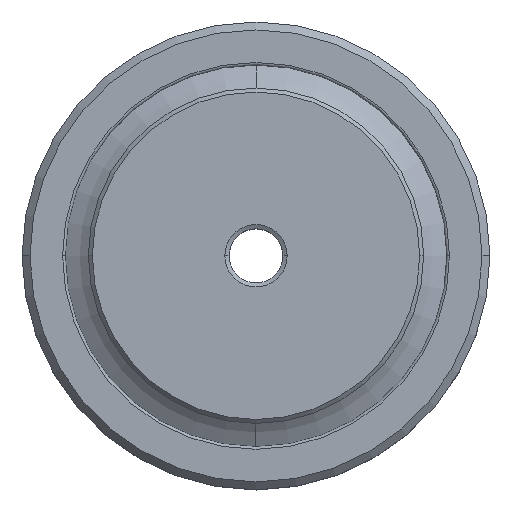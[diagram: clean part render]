
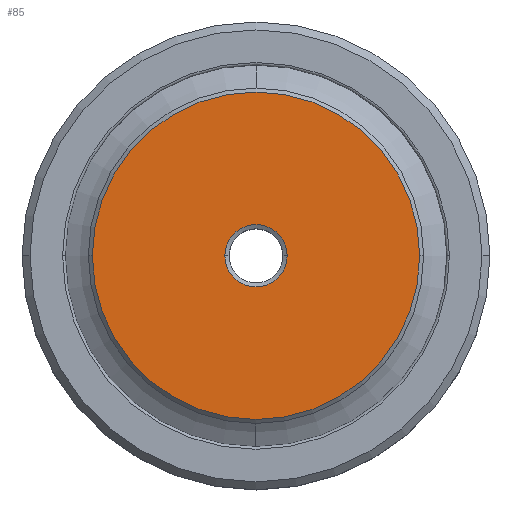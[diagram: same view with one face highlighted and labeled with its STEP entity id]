
A CAD part, top view. The second image highlights one B-rep face of the part: STEP entity #85.
In plain terms, the highlighted planar face has unit normal (0, 0, 1).
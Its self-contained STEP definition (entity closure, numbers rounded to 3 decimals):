
#85=ADVANCED_FACE('',(#180,#181),#182,.T.);
#180=FACE_OUTER_BOUND('',#288,.T.);
#181=FACE_BOUND('',#289,.T.);
#182=PLANE('',#290);
#288=EDGE_LOOP('',(#603,#604));
#289=EDGE_LOOP('',(#605,#606));
#290=AXIS2_PLACEMENT_3D('',#607,#608,#609);
#603=ORIENTED_EDGE('',*,*,#725,.F.);
#604=ORIENTED_EDGE('',*,*,#796,.F.);
#605=ORIENTED_EDGE('',*,*,#795,.T.);
#606=ORIENTED_EDGE('',*,*,#728,.T.);
#607=CARTESIAN_POINT('',(37.487,0.,72.));
#608=DIRECTION('',(0.0,0.,1.0));
#609=DIRECTION('',(-1.0,0.0,0.0));
#725=EDGE_CURVE('',#867,#869,#870,.T.);
#728=EDGE_CURVE('',#875,#872,#876,.T.);
#795=EDGE_CURVE('',#872,#875,#981,.T.);
#796=EDGE_CURVE('',#869,#867,#982,.T.);
#867=VERTEX_POINT('',#1061);
#869=VERTEX_POINT('',#1064);
#870=CIRCLE('',#1065,62.974);
#872=VERTEX_POINT('',#1068);
#875=VERTEX_POINT('',#1072);
#876=CIRCLE('',#1073,12.);
#981=CIRCLE('',#1195,12.);
#982=CIRCLE('',#1196,62.974);
#1061=CARTESIAN_POINT('',(62.974,0.,72.));
#1064=CARTESIAN_POINT('',(-62.974,0.,72.));
#1065=AXIS2_PLACEMENT_3D('',#1289,#1290,#1291);
#1068=CARTESIAN_POINT('',(12.,0.,72.));
#1072=CARTESIAN_POINT('',(-12.,0.,72.));
#1073=AXIS2_PLACEMENT_3D('',#1294,#1295,#1296);
#1195=AXIS2_PLACEMENT_3D('',#1461,#1462,#1463);
#1196=AXIS2_PLACEMENT_3D('',#1464,#1465,#1466);
#1289=CARTESIAN_POINT('',(0.0,0.,72.));
#1290=DIRECTION('',(0.,0.,-1.0));
#1291=DIRECTION('',(1.0,0.,0.));
#1294=CARTESIAN_POINT('',(0.0,0.,72.));
#1295=DIRECTION('',(0.,0.,-1.0));
#1296=DIRECTION('',(1.0,0.,0.));
#1461=CARTESIAN_POINT('',(0.0,0.,72.));
#1462=DIRECTION('',(0.,0.,-1.0));
#1463=DIRECTION('',(1.0,0.,0.));
#1464=CARTESIAN_POINT('',(0.0,0.,72.));
#1465=DIRECTION('',(0.,0.,-1.0));
#1466=DIRECTION('',(1.0,0.,0.));
